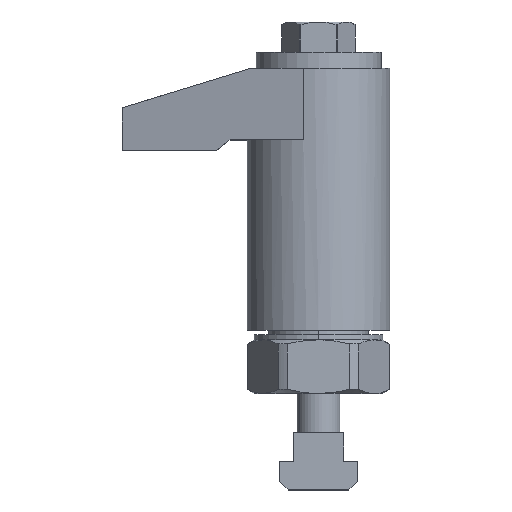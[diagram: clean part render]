
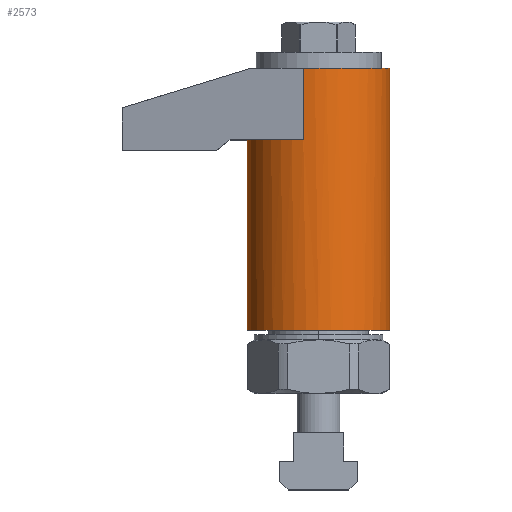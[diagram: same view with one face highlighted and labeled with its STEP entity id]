
A CAD part, top view. The second image highlights one B-rep face of the part: STEP entity #2573.
In plain terms, the highlighted cylindrical face has radius 20 mm (diameter 40 mm), a partial arc.
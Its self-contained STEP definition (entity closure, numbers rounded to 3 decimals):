
#35 = AXIS2_PLACEMENT_3D ( 'NONE', #335, #1490, #659 ) ;
#43 = CYLINDRICAL_SURFACE ( 'NONE', #2840, 20. ) ;
#61 = DIRECTION ( 'NONE',  ( 0., -1., 0. ) ) ;
#86 = DIRECTION ( 'NONE',  ( 0., 1., 0. ) ) ;
#219 = VECTOR ( 'NONE', #2348, 1000. ) ;
#239 = DIRECTION ( 'NONE',  ( 0., -1., 0. ) ) ;
#335 = CARTESIAN_POINT ( 'NONE',  ( 0., 53.3, 0. ) ) ;
#440 = AXIS2_PLACEMENT_3D ( 'NONE', #2279, #239, #544 ) ;
#523 = CARTESIAN_POINT ( 'NONE',  ( -20., 0., 0. ) ) ;
#533 = DIRECTION ( 'NONE',  ( 0., -1., 0. ) ) ;
#544 = DIRECTION ( 'NONE',  ( 1., 0., 0. ) ) ;
#587 = CARTESIAN_POINT ( 'NONE',  ( -20., 0., 0. ) ) ;
#591 = CIRCLE ( 'NONE', #35, 20. ) ;
#608 = CARTESIAN_POINT ( 'NONE',  ( 20., 73.3, 0. ) ) ;
#617 = CARTESIAN_POINT ( 'NONE',  ( 20., 0., 0. ) ) ;
#655 = CARTESIAN_POINT ( 'NONE',  ( 0., 0., 0. ) ) ;
#659 = DIRECTION ( 'NONE',  ( 1., 0., 0. ) ) ;
#770 = DIRECTION ( 'NONE',  ( 0., -1., 0. ) ) ;
#901 = FACE_OUTER_BOUND ( 'NONE', #3651, .T. ) ;
#1157 = ORIENTED_EDGE ( 'NONE', *, *, #2377, .F. ) ;
#1262 = CIRCLE ( 'NONE', #1752, 20. ) ;
#1408 = ORIENTED_EDGE ( 'NONE', *, *, #1729, .T. ) ;
#1490 = DIRECTION ( 'NONE',  ( 0., -1., 0. ) ) ;
#1505 = VERTEX_POINT ( 'NONE', #608 ) ;
#1617 = VECTOR ( 'NONE', #770, 1000. ) ;
#1618 = ORIENTED_EDGE ( 'NONE', *, *, #2822, .T. ) ;
#1648 = EDGE_CURVE ( 'NONE', #1748, #1843, #2773, .T. ) ;
#1707 = VERTEX_POINT ( 'NONE', #3430 ) ;
#1729 = EDGE_CURVE ( 'NONE', #2742, #1843, #3766, .T. ) ;
#1748 = VERTEX_POINT ( 'NONE', #2259 ) ;
#1752 = AXIS2_PLACEMENT_3D ( 'NONE', #3157, #533, #2874 ) ;
#1810 = VECTOR ( 'NONE', #86, 1000. ) ;
#1843 = VERTEX_POINT ( 'NONE', #587 ) ;
#1881 = CARTESIAN_POINT ( 'NONE',  ( -4.252, 73.3, 19.543 ) ) ;
#1893 = ORIENTED_EDGE ( 'NONE', *, *, #3548, .F. ) ;
#2259 = CARTESIAN_POINT ( 'NONE',  ( 20., 0., 0. ) ) ;
#2267 = CARTESIAN_POINT ( 'NONE',  ( -20., 53.3, 0. ) ) ;
#2279 = CARTESIAN_POINT ( 'NONE',  ( 0., 0., 0. ) ) ;
#2348 = DIRECTION ( 'NONE',  ( 0., -1., 0. ) ) ;
#2377 = EDGE_CURVE ( 'NONE', #1707, #2687, #3080, .T. ) ;
#2573 = ADVANCED_FACE ( 'NONE', ( #901 ), #43, .T. ) ;
#2675 = LINE ( 'NONE', #617, #219 ) ;
#2687 = VERTEX_POINT ( 'NONE', #1881 ) ;
#2721 = CARTESIAN_POINT ( 'NONE',  ( -4.252, 0., 19.543 ) ) ;
#2742 = VERTEX_POINT ( 'NONE', #2267 ) ;
#2773 = CIRCLE ( 'NONE', #440, 20. ) ;
#2815 = ORIENTED_EDGE ( 'NONE', *, *, #1648, .F. ) ;
#2822 = EDGE_CURVE ( 'NONE', #1505, #2687, #1262, .T. ) ;
#2840 = AXIS2_PLACEMENT_3D ( 'NONE', #655, #61, #3241 ) ;
#2874 = DIRECTION ( 'NONE',  ( 0., 0., 1. ) ) ;
#3080 = LINE ( 'NONE', #2721, #1810 ) ;
#3157 = CARTESIAN_POINT ( 'NONE',  ( 0., 73.3, 0. ) ) ;
#3170 = EDGE_CURVE ( 'NONE', #1707, #2742, #591, .T. ) ;
#3241 = DIRECTION ( 'NONE',  ( 1., 0., 0. ) ) ;
#3430 = CARTESIAN_POINT ( 'NONE',  ( -4.252, 53.3, 19.543 ) ) ;
#3548 = EDGE_CURVE ( 'NONE', #1505, #1748, #2675, .T. ) ;
#3621 = ORIENTED_EDGE ( 'NONE', *, *, #3170, .T. ) ;
#3651 = EDGE_LOOP ( 'NONE', ( #3621, #1408, #2815, #1893, #1618, #1157 ) ) ;
#3766 = LINE ( 'NONE', #523, #1617 ) ;
